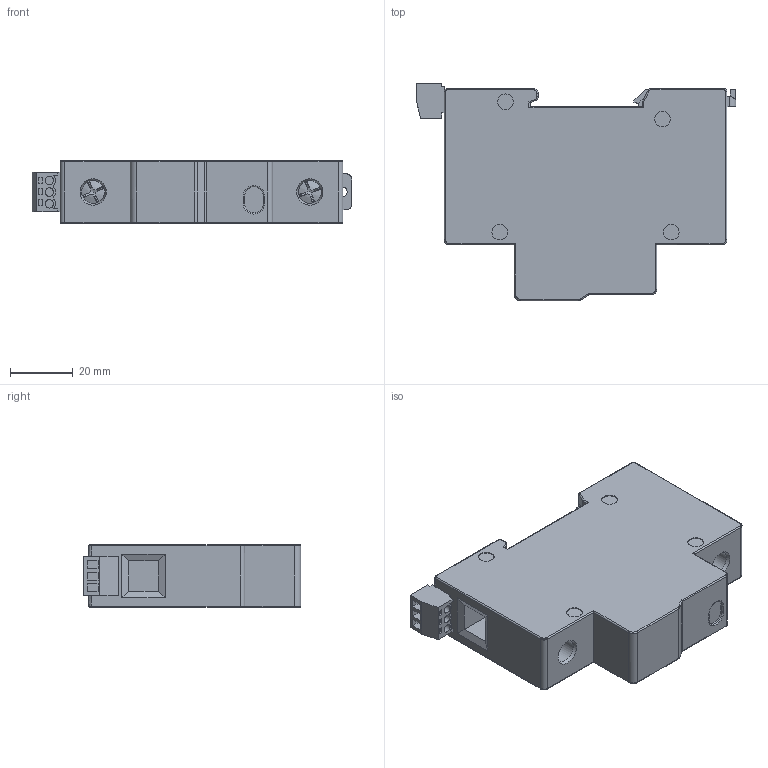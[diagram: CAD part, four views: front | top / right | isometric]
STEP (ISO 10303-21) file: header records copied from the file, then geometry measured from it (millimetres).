
FILE_DESCRIPTION (( 'STEP AP203' ), '1' );
FILE_NAME ('WTH-65.STEP', '2023-05-24T02:43:47', ( 'a' ), ( '' ), 'SwSTEP 2.0', 'SolidWorks 2016', '' );
FILE_SCHEMA (( 'CONFIG_CONTROL_DESIGN' ));
Length unit declared in the file: millimetre
Products named in the file (1): WTH-65
Bounding box: 101.85 x 69.2 x 20 mm (x, y, z)
Volume: 96382.4 mm3; surface area: 21137.9 mm2
Topology: 1 solids, 6 shells, 405 faces, 1027 edges, 656 vertices
Faces by surface type: plane 250, cylinder 88, bspline 47, cone 14, torus 6
Full cylindrical faces by diameter (mm): 2.7 x3, 4.48 x2, 5 x10, 6 x2, 7.35 x4
Entity records: 13691 total; most frequent: CARTESIAN_POINT 4405, ORIENTED_EDGE 1980, DIRECTION 1718, EDGE_CURVE 990, VERTEX_POINT 648, VECTOR 636, LINE 636, AXIS2_PLACEMENT_3D 541
